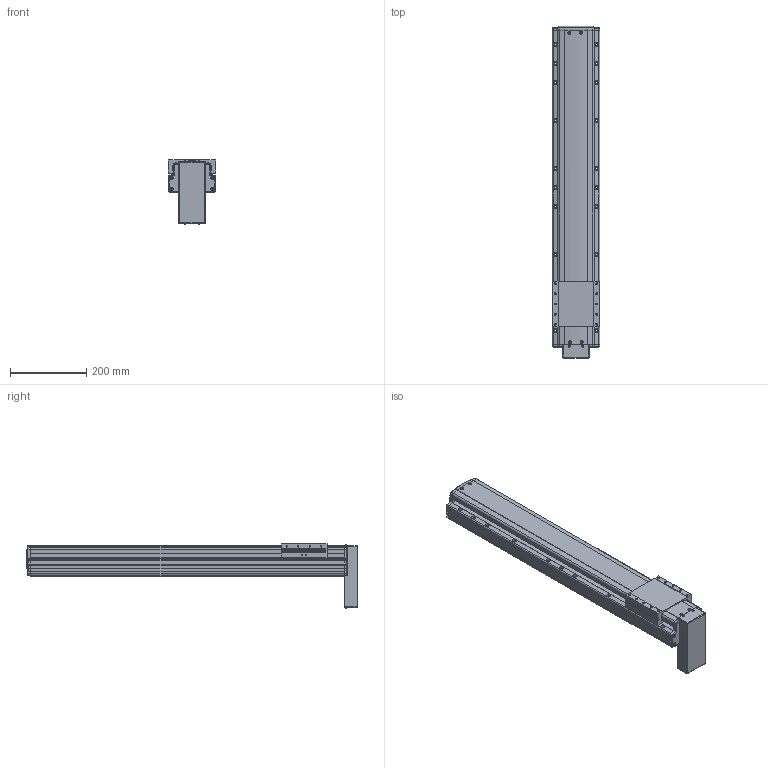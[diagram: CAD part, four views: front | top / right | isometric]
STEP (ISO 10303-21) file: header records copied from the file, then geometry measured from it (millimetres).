
FILE_DESCRIPTION(('STEP AP214'),'1');
FILE_NAME('Z:/Web/3D/PSA125/STP/PSA125-600 (3D)/PSA125ㅁㅁ-600PB.stp','2014-06-23T03:44:49',(' '),(' '),'Spatial InterOp 3D',' ',' ');
FILE_SCHEMA(('automotive_design'));
Length unit declared in the file: millimetre
Products named in the file (29): 스크루 : Round - M4.0 x 10.0; RRCV-PA120; SLIDE; BASE; FRCV-PA120-1(기준 뿔 제거); RR1500; 스크루 : Round - M4.0 x 6.0; 너트 : Square - M10.0 x 220.7419; 1; 2; 파트105; 스크루 : Round - M3.0 x 6.0
Bounding box: 125 x 868.6 x 169.06 mm (x, y, z)
Volume: 7424468.9 mm3; surface area: 625137.1 mm2
Topology: 29 solids, 29 shells, 2138 faces, 5691 edges, 3616 vertices
Faces by surface type: plane 1140, cylinder 632, cone 250, sphere 52, torus 33, bspline 31
Entity records: 85400 total; most frequent: CARTESIAN_POINT 14177, DIRECTION 11376, ORIENTED_EDGE 11106, EDGE_CURVE 5553, AXIS2_PLACEMENT_3D 3863, LINE 3650, VECTOR 3650, VERTEX_POINT 3616
